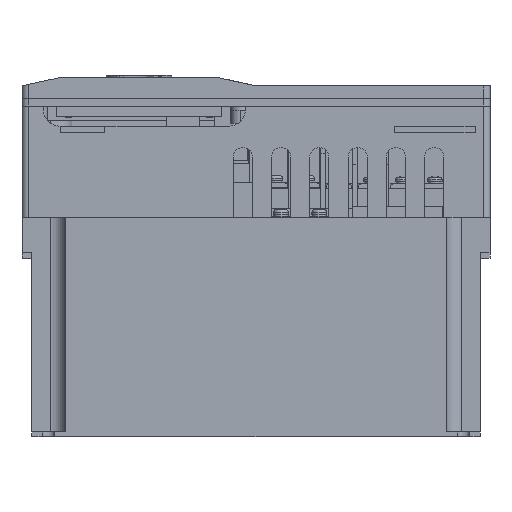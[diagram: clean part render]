
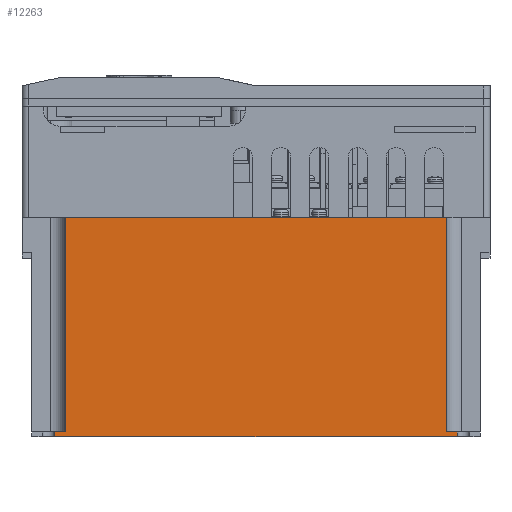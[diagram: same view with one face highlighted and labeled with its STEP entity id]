
A CAD part, front view. The second image highlights one B-rep face of the part: STEP entity #12263.
In plain terms, the highlighted planar face has unit normal (0, -1, 0).
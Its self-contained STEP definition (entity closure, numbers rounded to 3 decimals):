
#2449=DIRECTION('',(0.,0.,1.));
#2450=VECTOR('',#2449,100.7);
#2451=CARTESIAN_POINT('',(89.5,-130.,2.3));
#2452=LINE('',#2451,#2450);
#2477=DIRECTION('',(1.,0.,0.));
#2478=VECTOR('',#2477,179.);
#2479=CARTESIAN_POINT('',(-89.5,-130.,103.));
#2480=LINE('',#2479,#2478);
#2481=DIRECTION('',(1.,0.,0.));
#2482=VECTOR('',#2481,5.);
#2483=CARTESIAN_POINT('',(89.5,-130.,2.3));
#2484=LINE('',#2483,#2482);
#2485=DIRECTION('',(0.,0.,1.));
#2486=VECTOR('',#2485,2.3);
#2487=CARTESIAN_POINT('',(94.5,-130.,0.));
#2488=LINE('',#2487,#2486);
#2489=DIRECTION('',(0.,0.,1.));
#2490=VECTOR('',#2489,2.3);
#2491=CARTESIAN_POINT('',(-94.5,-130.,0.));
#2492=LINE('',#2491,#2490);
#2493=DIRECTION('',(1.,0.,0.));
#2494=VECTOR('',#2493,5.);
#2495=CARTESIAN_POINT('',(-94.5,-130.,2.3));
#2496=LINE('',#2495,#2494);
#2534=DIRECTION('',(1.,0.,0.));
#2535=VECTOR('',#2534,189.);
#2536=CARTESIAN_POINT('',(-94.5,-130.,0.));
#2537=LINE('',#2536,#2535);
#4775=DIRECTION('',(0.,0.,-1.));
#4776=VECTOR('',#4775,100.7);
#4777=CARTESIAN_POINT('',(-89.5,-130.,103.));
#4778=LINE('',#4777,#4776);
#6895=CARTESIAN_POINT('',(-94.5,-130.,0.));
#6897=VERTEX_POINT('',#6895);
#6899=CARTESIAN_POINT('',(94.5,-130.,0.));
#6901=VERTEX_POINT('',#6899);
#6909=CARTESIAN_POINT('',(-94.5,-130.,2.3));
#6910=VERTEX_POINT('',#6909);
#6911=CARTESIAN_POINT('',(94.5,-130.,2.3));
#6912=VERTEX_POINT('',#6911);
#6931=CARTESIAN_POINT('',(-89.5,-130.,2.3));
#6932=VERTEX_POINT('',#6931);
#6933=CARTESIAN_POINT('',(89.5,-130.,2.3));
#6934=VERTEX_POINT('',#6933);
#7115=CARTESIAN_POINT('',(-89.5,-130.,103.));
#7116=CARTESIAN_POINT('',(89.5,-130.,103.));
#7117=VERTEX_POINT('',#7115);
#7118=VERTEX_POINT('',#7116);
#12241=CARTESIAN_POINT('',(-105.5,-130.,0.));
#12242=DIRECTION('',(0.,-1.,0.));
#12243=DIRECTION('',(1.,0.,0.));
#12244=AXIS2_PLACEMENT_3D('',#12241,#12242,#12243);
#12245=PLANE('',#12244);
#12247=ORIENTED_EDGE('',*,*,#12246,.F.);
#12249=ORIENTED_EDGE('',*,*,#12248,.T.);
#12250=ORIENTED_EDGE('',*,*,#12199,.F.);
#12252=ORIENTED_EDGE('',*,*,#12251,.T.);
#12254=ORIENTED_EDGE('',*,*,#12253,.F.);
#12256=ORIENTED_EDGE('',*,*,#12255,.F.);
#12258=ORIENTED_EDGE('',*,*,#12257,.T.);
#12260=ORIENTED_EDGE('',*,*,#12259,.T.);
#12261=EDGE_LOOP('',(#12247,#12249,#12250,#12252,#12254,#12256,#12258,#12260));
#12262=FACE_OUTER_BOUND('',#12261,.F.);
#12263=ADVANCED_FACE('',(#12262),#12245,.T.);
#12199=EDGE_CURVE('',#6934,#7118,#2452,.T.);
#12246=EDGE_CURVE('',#7117,#6932,#4778,.T.);
#12248=EDGE_CURVE('',#7117,#7118,#2480,.T.);
#12251=EDGE_CURVE('',#6934,#6912,#2484,.T.);
#12253=EDGE_CURVE('',#6901,#6912,#2488,.T.);
#12255=EDGE_CURVE('',#6897,#6901,#2537,.T.);
#12257=EDGE_CURVE('',#6897,#6910,#2492,.T.);
#12259=EDGE_CURVE('',#6910,#6932,#2496,.T.);
